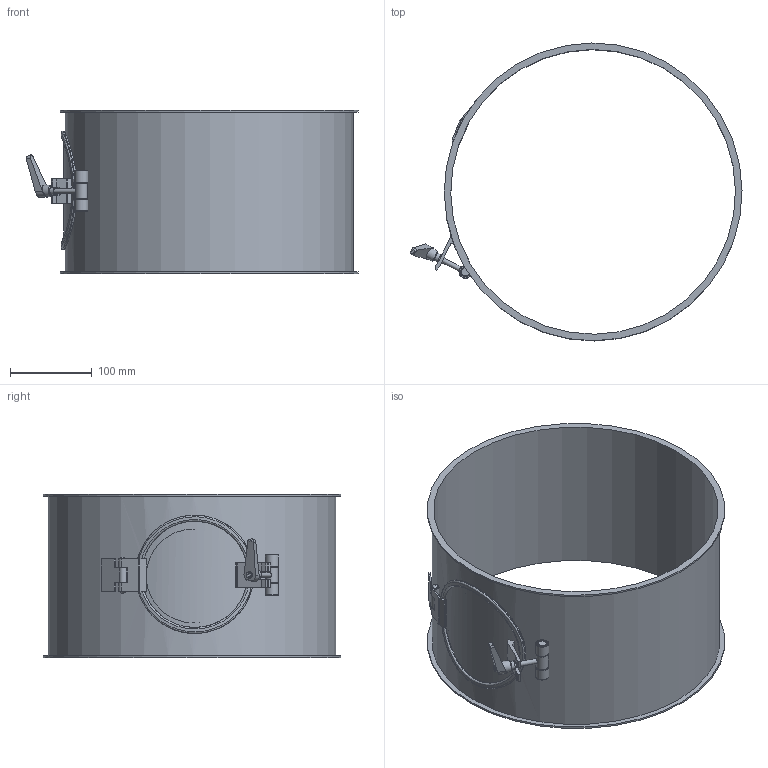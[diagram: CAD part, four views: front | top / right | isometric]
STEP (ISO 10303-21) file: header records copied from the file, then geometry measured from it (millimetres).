
FILE_DESCRIPTION((''),'2;1');
FILE_NAME('U:\Wolfgang\Marcel-3D\fertig\Kapitel 4\3521043.stp','2011-04-21T08:32:36',('TK1'),(''),'Autodesk Inventor 2010','Autodesk Inventor 2010','');
FILE_SCHEMA(('AUTOMOTIVE_DESIGN { 1 0 10303 214 1 1 1 1 }'));
Length unit declared in the file: millimetre
Products named in the file (13): 3521043 (Detailgenauigkeit1); 3521043-1; GelenkDeckel35b; GelenkDeckel1c; Deckel352; Deckel35b; GelenkDeckel35a; dichtung35; Halterung Deckel35; VerschlussA; Verschluss1; Verschluss2; Verstellbarer Klemmhebel GN 101-14-M6-SW
Assembly tree (13 placements, depth 3):
  3521043 (Detailgenauigkeit1)
    3521043-1
    GelenkDeckel35b
    GelenkDeckel1c
    Deckel352
      Deckel35b
      GelenkDeckel35a
      dichtung35
      Halterung Deckel35
    VerschlussA
      Verschluss1  x2
      Verschluss2
    Verstellbarer Klemmhebel GN 101-14-M6-SW
Bounding box: 406.94 x 364.99 x 200 mm (x, y, z)
Volume: 507934.9 mm3; surface area: 511473.4 mm2
Topology: 11 solids, 11 shells, 143 faces, 328 edges, 215 vertices
Faces by surface type: plane 67, cylinder 47, cone 18, torus 5, bspline 4, sphere 2
Full cylindrical faces by diameter (mm): 4.8 x1, 6 x5, 8 x1, 10 x3, 11 x2, 14 x1, 15 x1, 16 x2, 115 x1, 130 x1, 135 x1, 145 x1, 349 x1, 353 x1, 365 x2
Entity records: 5825 total; most frequent: CARTESIAN_POINT 2557, DIRECTION 632, ORIENTED_EDGE 532, EDGE_CURVE 266, AXIS2_PLACEMENT_3D 247, VERTEX_POINT 195, EDGE_LOOP 193, VECTOR 138
